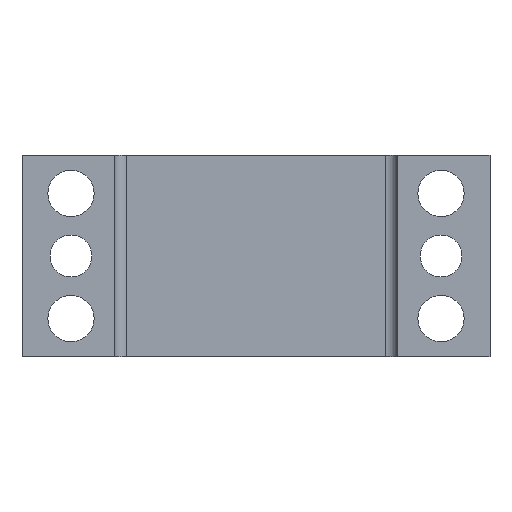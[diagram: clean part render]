
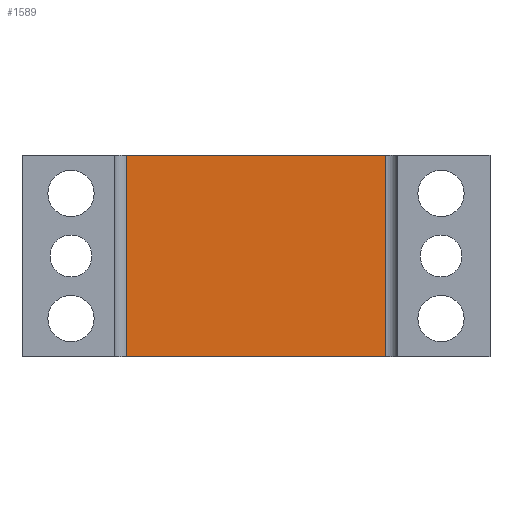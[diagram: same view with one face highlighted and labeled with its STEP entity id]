
A CAD part, front view. The second image highlights one B-rep face of the part: STEP entity #1589.
In plain terms, the highlighted planar face has unit normal (0, -1, 0).
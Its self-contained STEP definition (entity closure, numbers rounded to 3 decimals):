
#14 = EDGE_CURVE ( 'NONE', #76, #498, #551, .T. ) ;
#76 = VERTEX_POINT ( 'NONE', #1022 ) ;
#210 = EDGE_CURVE ( 'NONE', #76, #294, #635, .T. ) ;
#282 = ORIENTED_EDGE ( 'NONE', *, *, #210, .T. ) ;
#294 = VERTEX_POINT ( 'NONE', #937 ) ;
#327 = EDGE_CURVE ( 'NONE', #294, #456, #1058, .T. ) ;
#365 = ORIENTED_EDGE ( 'NONE', *, *, #14, .F. ) ;
#439 = EDGE_CURVE ( 'NONE', #498, #456, #1452, .T. ) ;
#456 = VERTEX_POINT ( 'NONE', #1528 ) ;
#490 = ORIENTED_EDGE ( 'NONE', *, *, #439, .F. ) ;
#498 = VERTEX_POINT ( 'NONE', #1721 ) ;
#551 = LINE ( 'NONE', #552, #553 ) ;
#552 = CARTESIAN_POINT ( 'NONE',  ( -23.8, 2.2, 18.5 ) ) ;
#553 = VECTOR ( 'NONE', #554, 1000. ) ;
#554 = DIRECTION ( 'NONE',  ( 1., 0., 0. ) ) ;
#635 = LINE ( 'NONE', #636, #637 ) ;
#636 = CARTESIAN_POINT ( 'NONE',  ( -23.8, 2.2, 18.5 ) ) ;
#637 = VECTOR ( 'NONE', #638, 1000. ) ;
#638 = DIRECTION ( 'NONE',  ( 0., 0., -1. ) ) ;
#892 = ORIENTED_EDGE ( 'NONE', *, *, #327, .T. ) ;
#937 = CARTESIAN_POINT ( 'NONE',  ( -23.8, 2.2, -18.5 ) ) ;
#1022 = CARTESIAN_POINT ( 'NONE',  ( -23.8, 2.2, 18.5 ) ) ;
#1058 = LINE ( 'NONE', #1059, #1060 ) ;
#1059 = CARTESIAN_POINT ( 'NONE',  ( -23.8, 2.2, -18.5 ) ) ;
#1060 = VECTOR ( 'NONE', #1061, 1000. ) ;
#1061 = DIRECTION ( 'NONE',  ( 1., 0., 0. ) ) ;
#1080 = FACE_OUTER_BOUND ( 'NONE', #1380, .T. ) ;
#1081 = PLANE ( 'NONE',  #1082 ) ;
#1082 = AXIS2_PLACEMENT_3D ( 'NONE', #1083, #1086, #1087 ) ;
#1083 = CARTESIAN_POINT ( 'NONE',  ( -23.8, 2.2, 18.5 ) ) ;
#1086 = DIRECTION ( 'NONE',  ( 0., 1., 0. ) ) ;
#1087 = DIRECTION ( 'NONE',  ( 0., 0., 1. ) ) ;
#1380 = EDGE_LOOP ( 'NONE', ( #892, #490, #365, #282 ) ) ;
#1452 = LINE ( 'NONE', #1453, #1454 ) ;
#1453 = CARTESIAN_POINT ( 'NONE',  ( 23.8, 2.2, 18.5 ) ) ;
#1454 = VECTOR ( 'NONE', #1455, 1000. ) ;
#1455 = DIRECTION ( 'NONE',  ( 0., 0., -1. ) ) ;
#1528 = CARTESIAN_POINT ( 'NONE',  ( 23.8, 2.2, -18.5 ) ) ;
#1589 = ADVANCED_FACE ( 'NONE', ( #1080 ), #1081, .F. ) ;
#1721 = CARTESIAN_POINT ( 'NONE',  ( 23.8, 2.2, 18.5 ) ) ;
